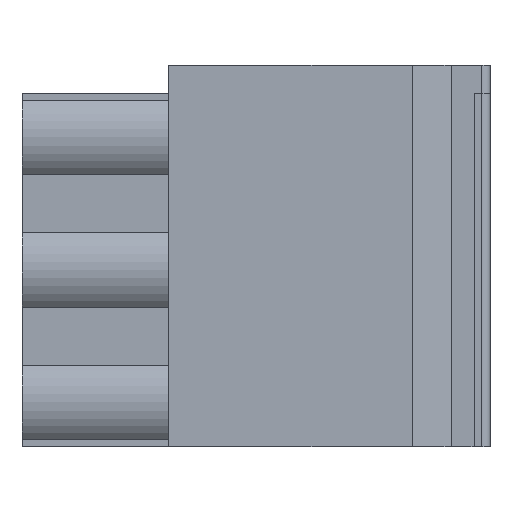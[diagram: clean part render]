
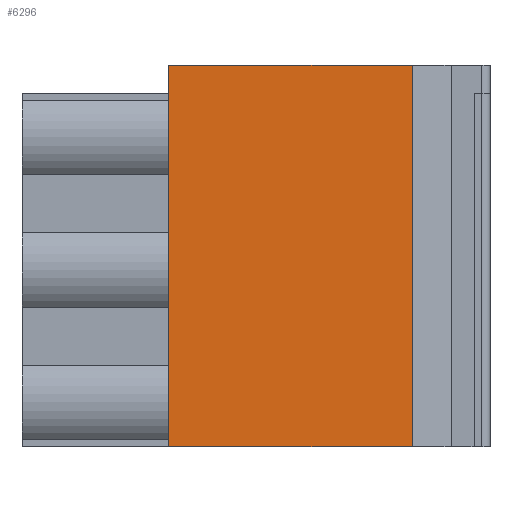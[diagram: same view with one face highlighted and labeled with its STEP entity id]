
A CAD part, top view. The second image highlights one B-rep face of the part: STEP entity #6296.
In plain terms, the highlighted planar face has unit normal (0, 0, 1).
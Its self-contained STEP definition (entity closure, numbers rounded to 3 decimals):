
#171=DIRECTION('',(0.,-1.,0.));
#172=VECTOR('',#171,21.6);
#173=CARTESIAN_POINT('',(5.6,2.,0.));
#174=LINE('',#173,#172);
#968=DIRECTION('',(0.,-1.,0.));
#969=VECTOR('',#968,21.6);
#970=CARTESIAN_POINT('',(19.4,2.,0.));
#971=LINE('',#970,#969);
#972=DIRECTION('',(-1.,0.,0.));
#973=VECTOR('',#972,13.8);
#974=CARTESIAN_POINT('',(19.4,-19.6,0.));
#975=LINE('',#974,#973);
#998=DIRECTION('',(-1.,0.,0.));
#999=VECTOR('',#998,13.8);
#1000=CARTESIAN_POINT('',(19.4,2.,0.));
#1001=LINE('',#1000,#999);
#4152=CARTESIAN_POINT('',(5.6,2.,0.));
#4153=CARTESIAN_POINT('',(5.6,-19.6,0.));
#4154=VERTEX_POINT('',#4152);
#4155=VERTEX_POINT('',#4153);
#4252=CARTESIAN_POINT('',(19.4,2.,0.));
#4253=CARTESIAN_POINT('',(19.4,-19.6,0.));
#4254=VERTEX_POINT('',#4252);
#4255=VERTEX_POINT('',#4253);
#6284=CARTESIAN_POINT('',(5.6,0.4,0.));
#6285=DIRECTION('',(0.,0.,1.));
#6286=DIRECTION('',(1.,0.,0.));
#6287=AXIS2_PLACEMENT_3D('',#6284,#6285,#6286);
#6288=PLANE('',#6287);
#6289=ORIENTED_EDGE('',*,*,#6277,.T.);
#6290=ORIENTED_EDGE('',*,*,#5576,.T.);
#6291=ORIENTED_EDGE('',*,*,#5370,.F.);
#6293=ORIENTED_EDGE('',*,*,#6292,.F.);
#6294=EDGE_LOOP('',(#6289,#6290,#6291,#6293));
#6295=FACE_OUTER_BOUND('',#6294,.F.);
#6296=ADVANCED_FACE('',(#6295),#6288,.T.);
#5370=EDGE_CURVE('',#4154,#4155,#174,.T.);
#5576=EDGE_CURVE('',#4255,#4155,#975,.T.);
#6277=EDGE_CURVE('',#4254,#4255,#971,.T.);
#6292=EDGE_CURVE('',#4254,#4154,#1001,.T.);
